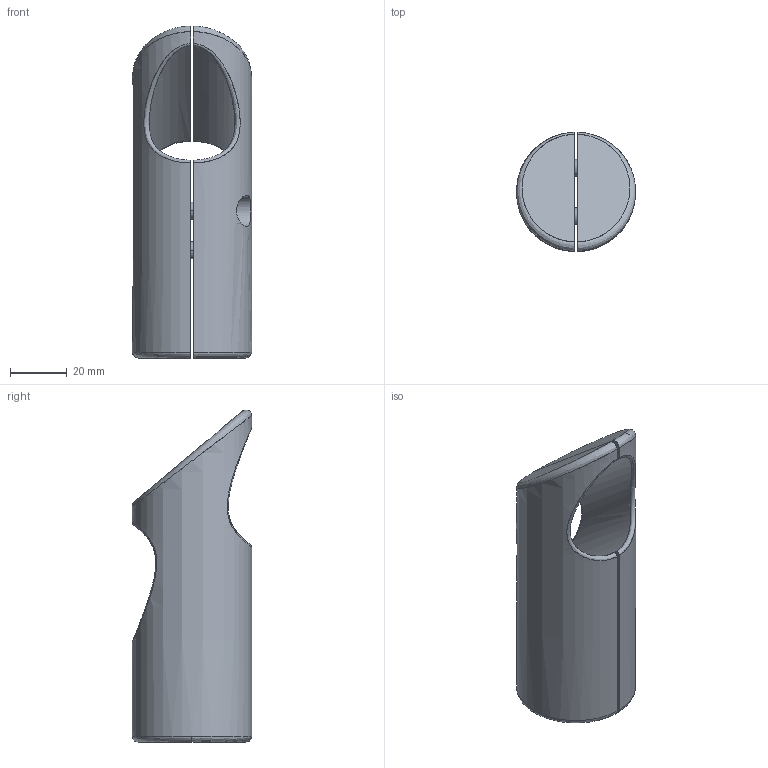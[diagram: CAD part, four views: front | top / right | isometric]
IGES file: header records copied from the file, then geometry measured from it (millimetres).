
Start section: SolidWorks IGES file using analytic representation for surfaces
Global section: file name: C:\Users\Gerard\OneDrive - Tecnodin, S.L\Escritorio\30 mm Verbinder im step. Format\31000410006.IGS; native system: SolidWorks 2016; preprocessor: SolidWorks 2016; author: Gerard; date: 240902.114538; units: millimetre
Bounding box: 42 x 41.99 x 116.98 mm (x, y, z)
Surface area: 27124.6 mm2 (no closed solid volume)
Topology: 0 solids, 0 shells, 93 faces, 1859 edges, 1851 vertices
Faces by surface type: revolution 52, bspline 41
